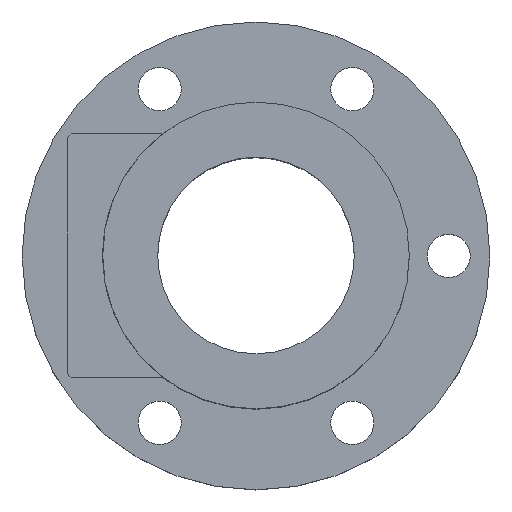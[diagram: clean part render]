
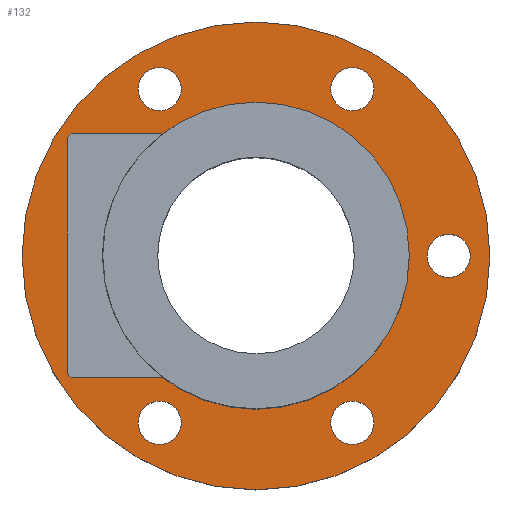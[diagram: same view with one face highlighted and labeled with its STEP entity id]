
A CAD part, top view. The second image highlights one B-rep face of the part: STEP entity #132.
In plain terms, the highlighted planar face has unit normal (0, 0, 1).
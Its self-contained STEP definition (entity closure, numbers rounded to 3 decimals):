
#97=PLANE('',#557);
#114=FACE_OUTER_BOUND('',#269,.T.);
#132=ADVANCED_FACE('',(#221,#222,#223,#114,#224,#225,#226),#97,.T.);
#221=FACE_BOUND('',#266,.T.);
#222=FACE_BOUND('',#267,.T.);
#223=FACE_BOUND('',#268,.T.);
#224=FACE_BOUND('',#270,.T.);
#225=FACE_BOUND('',#271,.T.);
#226=FACE_BOUND('',#272,.T.);
#266=EDGE_LOOP('',(#331));
#267=EDGE_LOOP('',(#332));
#268=EDGE_LOOP('',(#333));
#269=EDGE_LOOP('',(#334));
#270=EDGE_LOOP('',(#335));
#271=EDGE_LOOP('',(#336));
#272=EDGE_LOOP('',(#337));
#331=ORIENTED_EDGE('',*,*,#473,.F.);
#332=ORIENTED_EDGE('',*,*,#474,.F.);
#333=ORIENTED_EDGE('',*,*,#468,.F.);
#334=ORIENTED_EDGE('',*,*,#475,.T.);
#335=ORIENTED_EDGE('',*,*,#476,.F.);
#336=ORIENTED_EDGE('',*,*,#477,.F.);
#337=ORIENTED_EDGE('',*,*,#478,.F.);
#426=VERTEX_POINT('',#748);
#431=VERTEX_POINT('',#759);
#432=VERTEX_POINT('',#761);
#433=VERTEX_POINT('',#763);
#434=VERTEX_POINT('',#765);
#435=VERTEX_POINT('',#767);
#436=VERTEX_POINT('',#769);
#468=EDGE_CURVE('',#426,#426,#518,.T.);
#473=EDGE_CURVE('',#431,#431,#521,.T.);
#474=EDGE_CURVE('',#432,#432,#522,.T.);
#475=EDGE_CURVE('',#433,#433,#523,.T.);
#476=EDGE_CURVE('',#434,#434,#524,.T.);
#477=EDGE_CURVE('',#435,#435,#525,.T.);
#478=EDGE_CURVE('',#436,#436,#526,.T.);
#518=CIRCLE('',#547,39.);
#521=CIRCLE('',#551,5.5);
#522=CIRCLE('',#552,5.5);
#523=CIRCLE('',#553,59.5);
#524=CIRCLE('',#554,5.5);
#525=CIRCLE('',#555,5.5);
#526=CIRCLE('',#556,5.5);
#547=AXIS2_PLACEMENT_3D('',#747,#608,#609);
#551=AXIS2_PLACEMENT_3D('',#758,#618,#619);
#552=AXIS2_PLACEMENT_3D('',#760,#620,#621);
#553=AXIS2_PLACEMENT_3D('',#762,#622,#623);
#554=AXIS2_PLACEMENT_3D('',#764,#624,#625);
#555=AXIS2_PLACEMENT_3D('',#766,#626,#627);
#556=AXIS2_PLACEMENT_3D('',#768,#628,#629);
#557=AXIS2_PLACEMENT_3D('',#770,#630,#631);
#608=DIRECTION('',(0.,0.,1.));
#609=DIRECTION('',(1.,0.,0.));
#618=DIRECTION('',(0.,0.,1.));
#619=DIRECTION('',(-0.5,-0.866,0.));
#620=DIRECTION('',(0.,0.,1.));
#621=DIRECTION('',(0.5,0.866,0.));
#622=DIRECTION('',(0.,0.,1.));
#623=DIRECTION('',(1.,0.,0.));
#624=DIRECTION('',(0.,0.,1.));
#625=DIRECTION('',(1.,0.,0.));
#626=DIRECTION('',(0.,0.,1.));
#627=DIRECTION('',(-1.,0.,0.));
#628=DIRECTION('',(0.,0.,1.));
#629=DIRECTION('',(0.5,-0.866,0.));
#630=DIRECTION('',(0.,0.,1.));
#631=DIRECTION('',(1.,0.,0.));
#747=CARTESIAN_POINT('',(0.,0.,18.));
#748=CARTESIAN_POINT('',(39.,0.,18.));
#758=CARTESIAN_POINT('',(24.5,-42.435,18.));
#759=CARTESIAN_POINT('',(21.75,-47.198,18.));
#760=CARTESIAN_POINT('',(-24.5,42.435,18.));
#761=CARTESIAN_POINT('',(-21.75,47.198,18.));
#762=CARTESIAN_POINT('',(0.,0.,18.));
#763=CARTESIAN_POINT('',(59.5,0.,18.));
#764=CARTESIAN_POINT('',(24.5,42.435,18.));
#765=CARTESIAN_POINT('',(30.,42.435,18.));
#766=CARTESIAN_POINT('',(-24.5,-42.435,18.));
#767=CARTESIAN_POINT('',(-30.,-42.435,18.));
#768=CARTESIAN_POINT('',(49.,0.,18.));
#769=CARTESIAN_POINT('',(51.75,-4.763,18.));
#770=CARTESIAN_POINT('',(0.,0.,18.));
